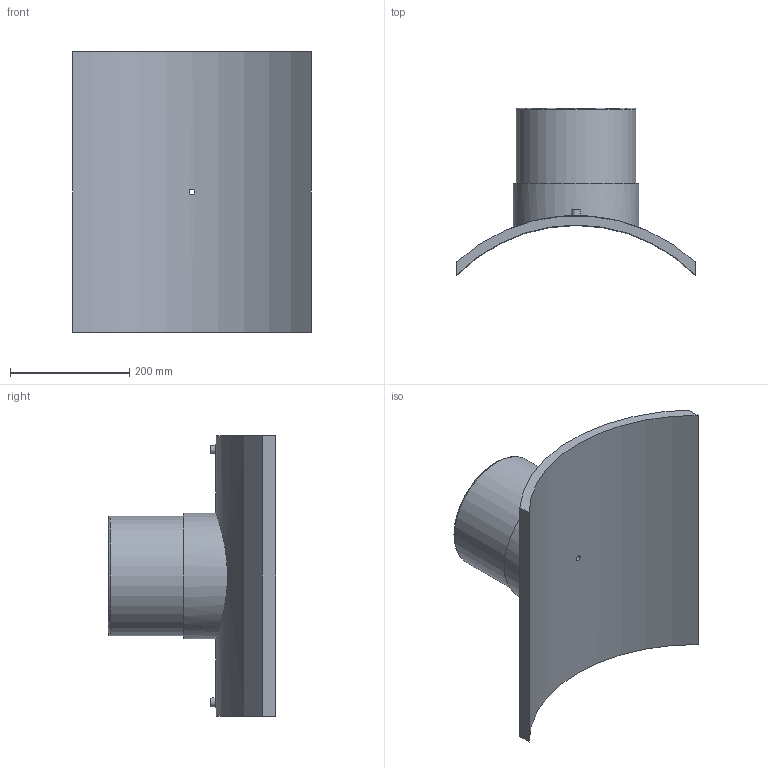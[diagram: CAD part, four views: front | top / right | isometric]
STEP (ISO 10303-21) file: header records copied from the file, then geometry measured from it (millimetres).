
FILE_DESCRIPTION(/* description */ ('PLASSON BRANCH SADDLE 560x200'),/* implementation_level */ '2;1');
FILE_NAME(/* name */ 'C:\Dropbox\KIMPROJECTS-Inventor 2019\99-16-3568-Processing\ElectroFusion Fittings\495803\stp\495803560200T.stp',/* time_stamp */ '2024-04-04T11:52:39+02:00',/* author */ ('KIM'),/* organization */ (''),/* preprocessor_version */ 'ST-DEVELOPER v17.2',/* originating_system */ 'Autodesk Inventor 2019',/* authorisation */ '');
FILE_SCHEMA (('AUTOMOTIVE_DESIGN { 1 0 10303 214 3 1 1 }'));
Length unit declared in the file: millimetre
Products named in the file (1): 495803560200T
Bounding box: 400 x 280.04 x 470 mm (x, y, z)
Volume: 5654210.3 mm3; surface area: 673033.4 mm2
Topology: 1 solids, 1 shells, 29 faces, 60 edges, 43 vertices
Faces by surface type: plane 13, cylinder 12, torus 2, cone 2
Full cylindrical faces by diameter (mm): 4 x2, 9.6 x1, 10 x2, 16 x1, 160 x1, 200 x1, 210 x1
Entity records: 1086 total; most frequent: CARTESIAN_POINT 400, DIRECTION 139, ORIENTED_EDGE 120, EDGE_CURVE 60, AXIS2_PLACEMENT_3D 60, VERTEX_POINT 43, EDGE_LOOP 41, CIRCLE 30
